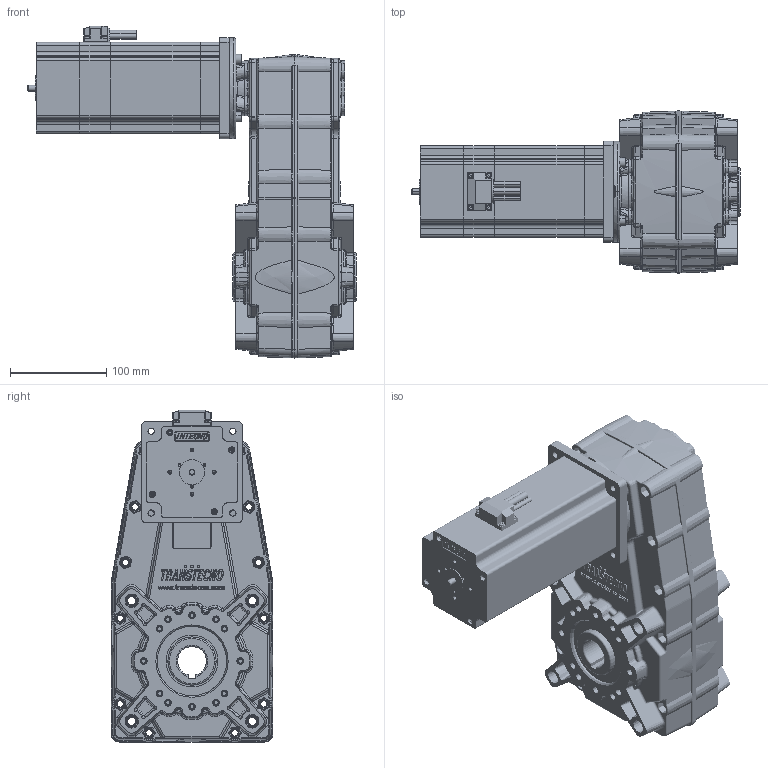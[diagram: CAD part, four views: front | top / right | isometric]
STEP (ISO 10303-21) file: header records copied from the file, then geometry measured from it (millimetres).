
FILE_DESCRIPTION (( 'STEP AP214' ), '1' );
FILE_NAME ('FT196+BL200.48.95.STEP', '2021-05-04T15:33:07', ( '' ), ( '' ), 'SwSTEP 2.0', 'SolidWorks 2020', '' );
FILE_SCHEMA (( 'AUTOMOTIVE_DESIGN' ));
Length unit declared in the file: millimetre
Products named in the file (11): 6SCHHM618ZC; FT1961230; FT196+BL200.48.95; FT19601_alleggerito; FT196152; ANELLO AS AS304708; W05004105; ANELLO AS AS507208; BL200.48.95 INT; NBR_47x7_DTMK70499; FT196_U_71B14_O30
Assembly tree (15 placements, depth 3):
  FT196+BL200.48.95
    FT196_U_71B14_O30
      ANELLO AS AS507208  x2
      W05004105
      FT19601_alleggerito  x2
      NBR_47x7_DTMK70499
      FT1961230
      ANELLO AS AS304708
      FT196152
    BL200.48.95 INT
    6SCHHM618ZC  x4
Bounding box: 341 x 168 x 344.5 mm (x, y, z)
Volume: 5664612.4 mm3; surface area: 637293.8 mm2
Topology: 19 solids, 22 shells, 5007 faces, 12210 edges, 7330 vertices
Faces by surface type: plane 1458, bspline 1188, cylinder 1150, cone 503, torus 442, sphere 266
Entity records: 119865 total; most frequent: CARTESIAN_POINT 50752, ORIENTED_EDGE 14922, DIRECTION 13014, EDGE_CURVE 7461, AXIS2_PLACEMENT_3D 5007, VERTEX_POINT 4582, EDGE_LOOP 3311, FACE_OUTER_BOUND 3074
